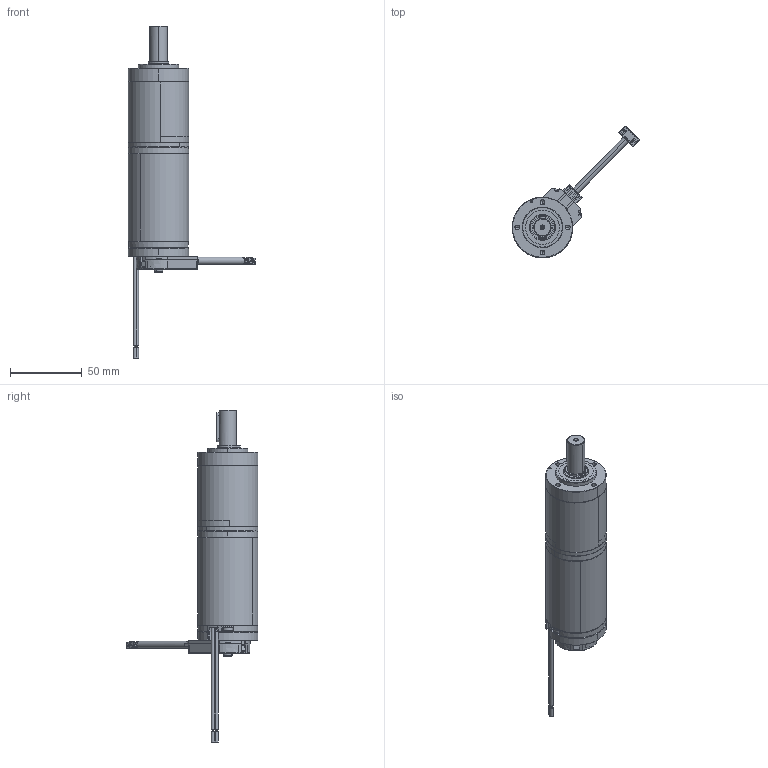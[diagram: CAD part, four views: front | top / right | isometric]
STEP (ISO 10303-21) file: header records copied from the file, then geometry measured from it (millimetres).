
FILE_DESCRIPTION (( 'STEP AP214' ), '1' );
FILE_NAME ('BRx42-25-PGx42 (2 Stage) - Incr Encoder.STEP', '2025-05-12T11:22:39', ( '' ), ( '' ), 'SwSTEP 2.0', 'SolidWorks 2023', '' );
FILE_SCHEMA (( 'AUTOMOTIVE_DESIGN' ));
Length unit declared in the file: millimetre
Products named in the file (1): BRx42-25-PGx42 (2 Stage) - Incr Encoder
Bounding box: 88.57 x 91.67 x 230.65 mm (x, y, z)
Volume: 122691.6 mm3; surface area: 75246.1 mm2
Topology: 39 solids, 41 shells, 3735 faces, 9556 edges, 6089 vertices
Faces by surface type: plane 1927, cylinder 766, cone 525, torus 255, bspline 234, sphere 28
Entity records: 167485 total; most frequent: CARTESIAN_POINT 36253, ORIENTED_EDGE 19064, DIRECTION 18084, EDGE_CURVE 9532, AXIS2_PLACEMENT_3D 6425, VERTEX_POINT 6089, VECTOR 5234, LINE 5234
